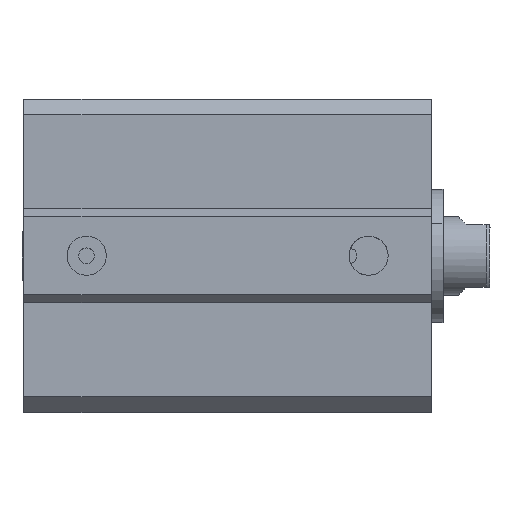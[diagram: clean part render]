
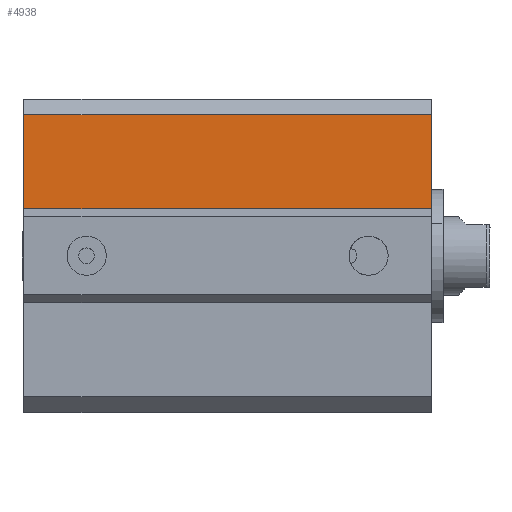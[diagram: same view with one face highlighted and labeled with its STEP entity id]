
A CAD part, top view. The second image highlights one B-rep face of the part: STEP entity #4938.
In plain terms, the highlighted planar face has unit normal (0, 0, 1).
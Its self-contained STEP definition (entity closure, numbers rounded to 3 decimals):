
#3859=CARTESIAN_POINT('Vertex',(52.,18.,20.)) ;
#3862=CARTESIAN_POINT('Line Origine',(52.,12.,20.)) ;
#3866=CARTESIAN_POINT('Vertex',(52.,6.,20.)) ;
#4900=CARTESIAN_POINT('Vertex',(0.,18.,20.)) ;
#4903=CARTESIAN_POINT('Line Origine',(26.,18.,20.)) ;
#4915=CARTESIAN_POINT('Axis2P3D Location',(0.,6.,20.)) ;
#4920=CARTESIAN_POINT('Line Origine',(0.,12.,20.)) ;
#4924=CARTESIAN_POINT('Vertex',(0.,6.,20.)) ;
#4927=CARTESIAN_POINT('Line Origine',(26.,6.,20.)) ;
#3863=DIRECTION('Vector Direction',(0.,1.,0.)) ;
#4904=DIRECTION('Vector Direction',(1.,0.,0.)) ;
#4916=DIRECTION('Axis2P3D Direction',(0.,0.,-1.)) ;
#4917=DIRECTION('Axis2P3D XDirection',(0.,1.,0.)) ;
#4921=DIRECTION('Vector Direction',(0.,1.,0.)) ;
#4928=DIRECTION('Vector Direction',(1.,0.,0.)) ;
#4918=AXIS2_PLACEMENT_3D('Plane Axis2P3D',#4915,#4916,#4917) ;
#4933=ORIENTED_EDGE('',*,*,#4907,.F.) ;
#4934=ORIENTED_EDGE('',*,*,#4926,.T.) ;
#4935=ORIENTED_EDGE('',*,*,#4931,.T.) ;
#4936=ORIENTED_EDGE('',*,*,#3868,.F.) ;
#3864=VECTOR('Line Direction',#3863,1.) ;
#4905=VECTOR('Line Direction',#4904,1.) ;
#4922=VECTOR('Line Direction',#4921,1.) ;
#4929=VECTOR('Line Direction',#4928,1.) ;
#4938=ADVANCED_FACE('PartBody',(#4937),#4919,.F.) ;
#3868=EDGE_CURVE('',#3860,#3867,#3865,.F.) ;
#4907=EDGE_CURVE('',#4901,#3860,#4906,.T.) ;
#4926=EDGE_CURVE('',#4901,#4925,#4923,.F.) ;
#4931=EDGE_CURVE('',#4925,#3867,#4930,.T.) ;
#4932=EDGE_LOOP('',(#4933,#4934,#4935,#4936)) ;
#4937=FACE_OUTER_BOUND('',#4932,.T.) ;
#3865=LINE('Line',#3862,#3864) ;
#4906=LINE('Line',#4903,#4905) ;
#4923=LINE('Line',#4920,#4922) ;
#4930=LINE('Line',#4927,#4929) ;
#4919=PLANE('',#4918) ;
#3860=VERTEX_POINT('',#3859) ;
#3867=VERTEX_POINT('',#3866) ;
#4901=VERTEX_POINT('',#4900) ;
#4925=VERTEX_POINT('',#4924) ;
